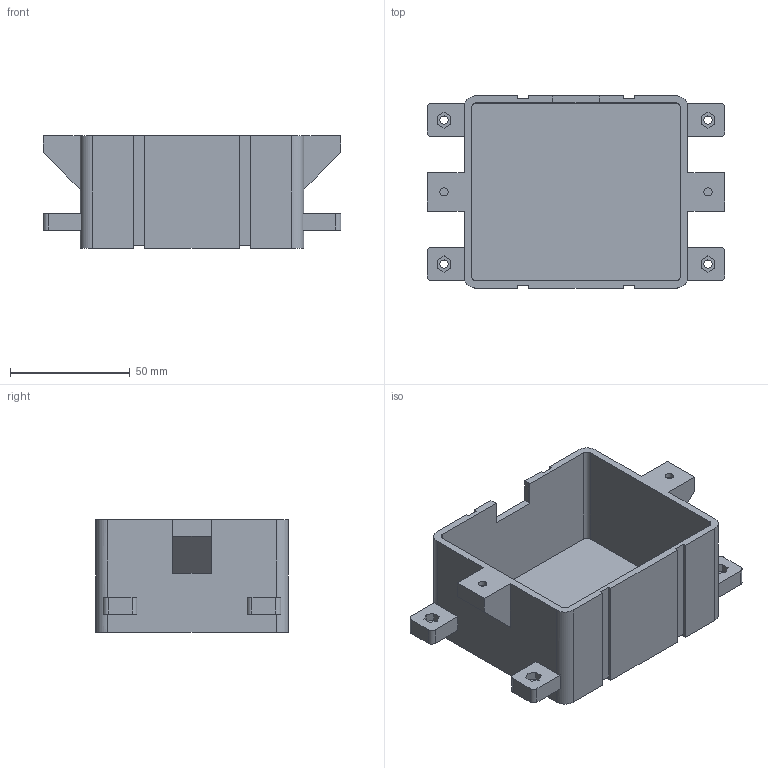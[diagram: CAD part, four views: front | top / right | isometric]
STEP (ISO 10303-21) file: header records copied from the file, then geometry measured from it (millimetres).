
FILE_DESCRIPTION(('FreeCAD Model'),'2;1');
FILE_NAME('Open CASCADE Shape Model','2026-10-26T18:20:31',('FreeCAD'),( 'FreeCAD'),'Open CASCADE STEP processor 7.8','FreeCAD','Unknown');
FILE_SCHEMA(('AUTOMOTIVE_DESIGN { 1 0 10303 214 1 1 1 1 }'));
Length unit declared in the file: millimetre
Products named in the file (1): Open CASCADE STEP translator 7.8 9
Bounding box: 124 x 80.2 x 47 mm (x, y, z)
Volume: 75540.6 mm3; surface area: 50118.8 mm2
Topology: 1 solids, 1 shells, 130 faces, 354 edges, 236 vertices
Faces by surface type: plane 104, cylinder 26
Full cylindrical faces by diameter (mm): 3.4 x8
Entity records: 4104 total; most frequent: CARTESIAN_POINT 721, ORIENTED_EDGE 708, DIRECTION 676, EDGE_CURVE 354, LINE 294, VECTOR 294, VERTEX_POINT 236, AXIS2_PLACEMENT_3D 191
